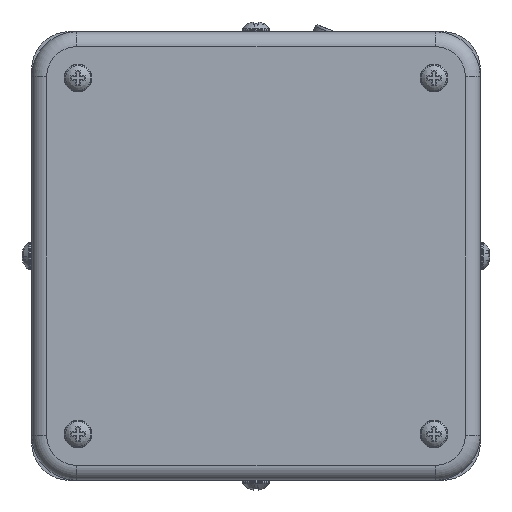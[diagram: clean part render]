
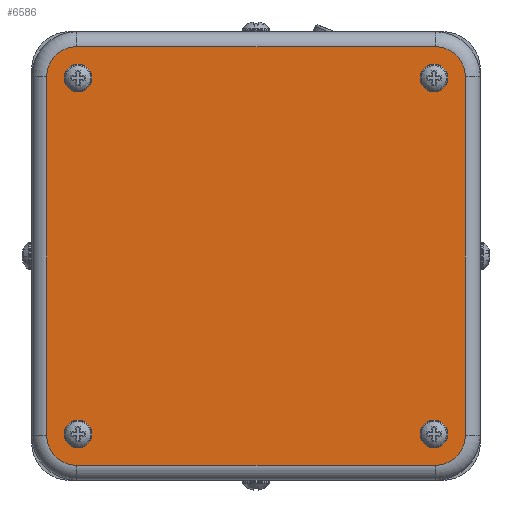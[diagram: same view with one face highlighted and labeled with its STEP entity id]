
A CAD part, left-side view. The second image highlights one B-rep face of the part: STEP entity #6586.
In plain terms, the highlighted planar face has unit normal (-1, 0, 0).
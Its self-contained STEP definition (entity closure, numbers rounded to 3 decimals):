
#2256=CARTESIAN_POINT('',(-60.,35.709,32.909));
#2257=VERTEX_POINT('',#2256);
#2258=CARTESIAN_POINT('',(-60.,35.709,35.709));
#2259=DIRECTION('',(1.0,0.0,0.0));
#2260=DIRECTION('',(0.0,0.0,1.0));
#2261=AXIS2_PLACEMENT_3D('',#2258,#2259,#2260);
#2262=CIRCLE('',#2261,2.8);
#2263=EDGE_CURVE('',#2257,#2257,#2262,.T.);
#2855=CARTESIAN_POINT('',(-60.,35.709,-38.509));
#2856=VERTEX_POINT('',#2855);
#2857=CARTESIAN_POINT('',(-60.,35.709,-35.709));
#2858=DIRECTION('',(1.0,0.0,0.0));
#2859=DIRECTION('',(0.0,0.0,1.0));
#2860=AXIS2_PLACEMENT_3D('',#2857,#2858,#2859);
#2861=CIRCLE('',#2860,2.8);
#2862=EDGE_CURVE('',#2856,#2856,#2861,.T.);
#3452=CARTESIAN_POINT('',(-60.,-35.709,-38.509));
#3453=VERTEX_POINT('',#3452);
#3454=CARTESIAN_POINT('',(-60.,-35.709,-35.709));
#3455=DIRECTION('',(1.0,0.0,0.0));
#3456=DIRECTION('',(0.0,0.0,1.0));
#3457=AXIS2_PLACEMENT_3D('',#3454,#3455,#3456);
#3458=CIRCLE('',#3457,2.8);
#3459=EDGE_CURVE('',#3453,#3453,#3458,.T.);
#6491=CARTESIAN_POINT('',(-60.,-7.027,-7.027));
#6492=DIRECTION('',(1.0,0.0,0.0));
#6493=DIRECTION('',(0.0,0.0,-1.0));
#6494=AXIS2_PLACEMENT_3D('',#6491,#6492,#6493);
#6495=PLANE('',#6494);
#6496=CARTESIAN_POINT('',(-60.,-42.,-36.));
#6497=VERTEX_POINT('',#6496);
#6498=CARTESIAN_POINT('',(-60.,-36.,-42.));
#6499=VERTEX_POINT('',#6498);
#6500=CARTESIAN_POINT('',(-60.,-36.,-36.));
#6501=DIRECTION('',(1.0,0.0,0.0));
#6502=DIRECTION('',(0.0,-0.707,-0.707));
#6503=AXIS2_PLACEMENT_3D('',#6500,#6501,#6502);
#6504=CIRCLE('',#6503,6.);
#6505=EDGE_CURVE('',#6497,#6499,#6504,.T.);
#6506=ORIENTED_EDGE('',*,*,#6505,.F.);
#6507=CARTESIAN_POINT('',(-60.,-42.0,36.));
#6508=VERTEX_POINT('',#6507);
#6509=CARTESIAN_POINT('',(-60.,-42.0,36.));
#6510=DIRECTION('',(0.0,0.0,-1.0));
#6511=VECTOR('',#6510,72.);
#6512=LINE('',#6509,#6511);
#6513=EDGE_CURVE('',#6508,#6497,#6512,.T.);
#6514=ORIENTED_EDGE('',*,*,#6513,.F.);
#6515=CARTESIAN_POINT('',(-60.,-36.0,42.));
#6516=VERTEX_POINT('',#6515);
#6517=CARTESIAN_POINT('',(-60.,-36.,36.));
#6518=DIRECTION('',(1.0,0.0,0.0));
#6519=DIRECTION('',(0.0,-0.707,0.707));
#6520=AXIS2_PLACEMENT_3D('',#6517,#6518,#6519);
#6521=CIRCLE('',#6520,6.);
#6522=EDGE_CURVE('',#6516,#6508,#6521,.T.);
#6523=ORIENTED_EDGE('',*,*,#6522,.F.);
#6524=CARTESIAN_POINT('',(-60.,36.0,42.));
#6525=VERTEX_POINT('',#6524);
#6526=CARTESIAN_POINT('',(-60.,36.0,42.));
#6527=DIRECTION('',(0.0,-1.0,0.0));
#6528=VECTOR('',#6527,72.0);
#6529=LINE('',#6526,#6528);
#6530=EDGE_CURVE('',#6525,#6516,#6529,.T.);
#6531=ORIENTED_EDGE('',*,*,#6530,.F.);
#6532=CARTESIAN_POINT('',(-60.,42.0,36.));
#6533=VERTEX_POINT('',#6532);
#6534=CARTESIAN_POINT('',(-60.,36.,36.));
#6535=DIRECTION('',(1.0,0.0,0.0));
#6536=DIRECTION('',(0.0,0.707,0.707));
#6537=AXIS2_PLACEMENT_3D('',#6534,#6535,#6536);
#6538=CIRCLE('',#6537,6.);
#6539=EDGE_CURVE('',#6533,#6525,#6538,.T.);
#6540=ORIENTED_EDGE('',*,*,#6539,.F.);
#6541=CARTESIAN_POINT('',(-60.,42.,-36.));
#6542=VERTEX_POINT('',#6541);
#6543=CARTESIAN_POINT('',(-60.,42.,-36.));
#6544=DIRECTION('',(0.0,0.0,1.0));
#6545=VECTOR('',#6544,72.);
#6546=LINE('',#6543,#6545);
#6547=EDGE_CURVE('',#6542,#6533,#6546,.T.);
#6548=ORIENTED_EDGE('',*,*,#6547,.F.);
#6549=CARTESIAN_POINT('',(-60.,36.,-42.));
#6550=VERTEX_POINT('',#6549);
#6551=CARTESIAN_POINT('',(-60.,36.,-36.));
#6552=DIRECTION('',(1.0,0.0,0.0));
#6553=DIRECTION('',(0.0,0.707,-0.707));
#6554=AXIS2_PLACEMENT_3D('',#6551,#6552,#6553);
#6555=CIRCLE('',#6554,6.);
#6556=EDGE_CURVE('',#6550,#6542,#6555,.T.);
#6557=ORIENTED_EDGE('',*,*,#6556,.F.);
#6558=CARTESIAN_POINT('',(-60.,-36.,-42.));
#6559=DIRECTION('',(0.0,1.0,0.0));
#6560=VECTOR('',#6559,72.);
#6561=LINE('',#6558,#6560);
#6562=EDGE_CURVE('',#6499,#6550,#6561,.T.);
#6563=ORIENTED_EDGE('',*,*,#6562,.F.);
#6564=EDGE_LOOP('',(#6506,#6514,#6523,#6531,#6540,#6548,#6557,#6563));
#6565=FACE_OUTER_BOUND('',#6564,.T.);
#6566=ORIENTED_EDGE('',*,*,#2263,.T.);
#6567=EDGE_LOOP('',(#6566));
#6568=FACE_BOUND('',#6567,.T.);
#6569=CARTESIAN_POINT('',(-60.,-35.709,32.909));
#6570=VERTEX_POINT('',#6569);
#6571=CARTESIAN_POINT('',(-60.,-35.709,35.709));
#6572=DIRECTION('',(1.0,0.0,0.0));
#6573=DIRECTION('',(0.0,0.0,1.0));
#6574=AXIS2_PLACEMENT_3D('',#6571,#6572,#6573);
#6575=CIRCLE('',#6574,2.8);
#6576=EDGE_CURVE('',#6570,#6570,#6575,.T.);
#6577=ORIENTED_EDGE('',*,*,#6576,.T.);
#6578=EDGE_LOOP('',(#6577));
#6579=FACE_BOUND('',#6578,.T.);
#6580=ORIENTED_EDGE('',*,*,#2862,.T.);
#6581=EDGE_LOOP('',(#6580));
#6582=FACE_BOUND('',#6581,.T.);
#6583=ORIENTED_EDGE('',*,*,#3459,.T.);
#6584=EDGE_LOOP('',(#6583));
#6585=FACE_BOUND('',#6584,.T.);
#6586=ADVANCED_FACE('',(#6565,#6568,#6579,#6582,#6585),#6495,.F.);
